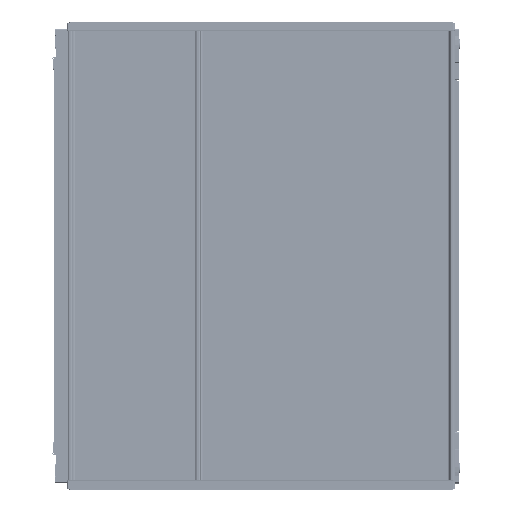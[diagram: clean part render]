
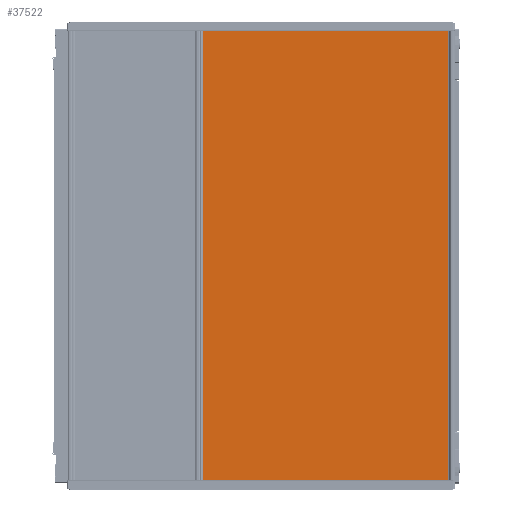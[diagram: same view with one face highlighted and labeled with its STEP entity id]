
A CAD part, top view. The second image highlights one B-rep face of the part: STEP entity #37522.
In plain terms, the highlighted planar face has unit normal (0, 0, 1).
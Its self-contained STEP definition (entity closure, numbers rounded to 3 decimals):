
#37522=ADVANCED_FACE('',(#55480),#42730,.T.);
#42730=PLANE('',#259405);
#55480=FACE_OUTER_BOUND('',#70096,.T.);
#70096=EDGE_LOOP('',(#137798,#137799,#137800,#137801));
#137798=ORIENTED_EDGE('',*,*,#197108,.F.);
#137799=ORIENTED_EDGE('',*,*,#197109,.T.);
#137800=ORIENTED_EDGE('',*,*,#197110,.T.);
#137801=ORIENTED_EDGE('',*,*,#197111,.T.);
#162431=VERTEX_POINT('',#551487);
#162432=VERTEX_POINT('',#551488);
#162433=VERTEX_POINT('',#551490);
#162434=VERTEX_POINT('',#551492);
#197108=EDGE_CURVE('',#162431,#162432,#223197,.T.);
#197109=EDGE_CURVE('',#162431,#162433,#223198,.T.);
#197110=EDGE_CURVE('',#162433,#162434,#223199,.T.);
#197111=EDGE_CURVE('',#162434,#162432,#223200,.T.);
#223197=LINE('',#551486,#238322);
#223198=LINE('',#551489,#238323);
#223199=LINE('',#551491,#238324);
#223200=LINE('',#551493,#238325);
#238322=VECTOR('',#315622,1.);
#238323=VECTOR('',#315623,1.);
#238324=VECTOR('',#315624,1.);
#238325=VECTOR('',#315625,1.);
#259405=AXIS2_PLACEMENT_3D('',#551494,#315626,#315627);
#315622=DIRECTION('',(-1.,0.,0.));
#315623=DIRECTION('',(0.,1.,0.));
#315624=DIRECTION('',(-1.,0.,0.));
#315625=DIRECTION('',(0.,-1.,0.));
#315626=DIRECTION('',(0.,0.,1.));
#315627=DIRECTION('',(0.,1.,0.));
#551486=CARTESIAN_POINT('',(-204.75,-272.7,103.082));
#551487=CARTESIAN_POINT('',(-13.75,-272.7,103.082));
#551488=CARTESIAN_POINT('',(-310.75,-272.7,103.082));
#551489=CARTESIAN_POINT('',(-13.75,8.3,103.082));
#551490=CARTESIAN_POINT('',(-13.75,272.7,103.082));
#551491=CARTESIAN_POINT('',(-204.75,272.7,103.082));
#551492=CARTESIAN_POINT('',(-310.75,272.7,103.082));
#551493=CARTESIAN_POINT('',(-310.75,-272.7,103.082));
#551494=CARTESIAN_POINT('',(-204.75,-115.2,103.082));
